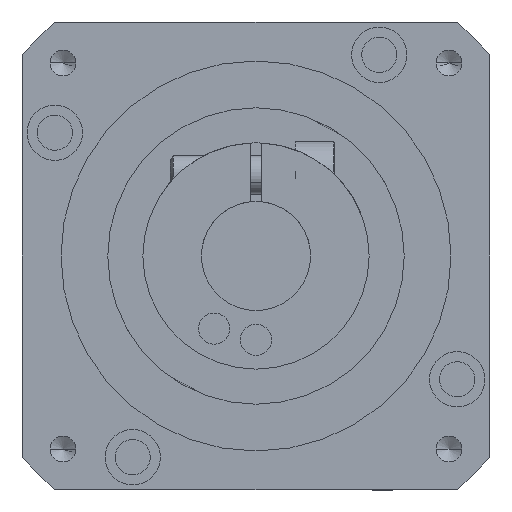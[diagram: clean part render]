
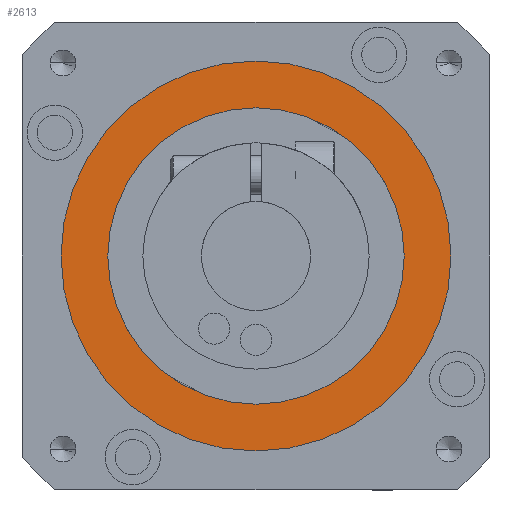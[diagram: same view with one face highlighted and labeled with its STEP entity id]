
A CAD part, front view. The second image highlights one B-rep face of the part: STEP entity #2613.
In plain terms, the highlighted planar face has unit normal (0, -1, 0).
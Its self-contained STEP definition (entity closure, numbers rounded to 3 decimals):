
#87 = VERTEX_POINT ( 'NONE', #4539 ) ;
#252 = EDGE_CURVE ( 'NONE', #3378, #2198, #2495, .T. ) ;
#299 = CARTESIAN_POINT ( 'NONE',  ( 0., -36., 0. ) ) ;
#634 = AXIS2_PLACEMENT_3D ( 'NONE', #2038, #5037, #5758 ) ;
#646 = CIRCLE ( 'NONE', #3174, 25. ) ;
#991 = EDGE_CURVE ( 'NONE', #3278, #87, #2630, .T. ) ;
#1233 = CARTESIAN_POINT ( 'NONE',  ( 0., -36., 0. ) ) ;
#1535 = PLANE ( 'NONE',  #634 ) ;
#2038 = CARTESIAN_POINT ( 'NONE',  ( 25., -36., 0. ) ) ;
#2110 = ORIENTED_EDGE ( 'NONE', *, *, #2988, .F. ) ;
#2175 = DIRECTION ( 'NONE',  ( 0., 1., 0. ) ) ;
#2198 = VERTEX_POINT ( 'NONE', #5330 ) ;
#2495 = CIRCLE ( 'NONE', #5083, 19. ) ;
#2518 = DIRECTION ( 'NONE',  ( 0., 0., 1. ) ) ;
#2613 = ADVANCED_FACE ( 'NONE', ( #3920, #7192 ), #1535, .F. ) ;
#2630 = CIRCLE ( 'NONE', #4848, 25. ) ;
#2836 = EDGE_CURVE ( 'NONE', #2198, #3378, #7726, .T. ) ;
#2988 = EDGE_CURVE ( 'NONE', #87, #3278, #646, .T. ) ;
#3174 = AXIS2_PLACEMENT_3D ( 'NONE', #7784, #3592, #5738 ) ;
#3278 = VERTEX_POINT ( 'NONE', #8348 ) ;
#3378 = VERTEX_POINT ( 'NONE', #4331 ) ;
#3552 = DIRECTION ( 'NONE',  ( 0., 1., 0. ) ) ;
#3592 = DIRECTION ( 'NONE',  ( 0., 1., 0. ) ) ;
#3920 = FACE_OUTER_BOUND ( 'NONE', #6671, .T. ) ;
#4331 = CARTESIAN_POINT ( 'NONE',  ( 0., -36., -19. ) ) ;
#4539 = CARTESIAN_POINT ( 'NONE',  ( 0., -36., 25. ) ) ;
#4767 = DIRECTION ( 'NONE',  ( 0., 0., 1. ) ) ;
#4848 = AXIS2_PLACEMENT_3D ( 'NONE', #1233, #6008, #4767 ) ;
#5037 = DIRECTION ( 'NONE',  ( 0., 1., 0. ) ) ;
#5083 = AXIS2_PLACEMENT_3D ( 'NONE', #299, #2175, #2518 ) ;
#5330 = CARTESIAN_POINT ( 'NONE',  ( 0., -36., 19. ) ) ;
#5738 = DIRECTION ( 'NONE',  ( 0., 0., 1. ) ) ;
#5758 = DIRECTION ( 'NONE',  ( 0., 0., 1. ) ) ;
#5982 = EDGE_LOOP ( 'NONE', ( #6383, #7695 ) ) ;
#6008 = DIRECTION ( 'NONE',  ( 0., 1., 0. ) ) ;
#6184 = ORIENTED_EDGE ( 'NONE', *, *, #991, .F. ) ;
#6383 = ORIENTED_EDGE ( 'NONE', *, *, #2836, .T. ) ;
#6671 = EDGE_LOOP ( 'NONE', ( #2110, #6184 ) ) ;
#7192 = FACE_BOUND ( 'NONE', #5982, .T. ) ;
#7402 = AXIS2_PLACEMENT_3D ( 'NONE', #8468, #3552, #7757 ) ;
#7695 = ORIENTED_EDGE ( 'NONE', *, *, #252, .T. ) ;
#7726 = CIRCLE ( 'NONE', #7402, 19. ) ;
#7757 = DIRECTION ( 'NONE',  ( 0., 0., 1. ) ) ;
#7784 = CARTESIAN_POINT ( 'NONE',  ( 0., -36., 0. ) ) ;
#8348 = CARTESIAN_POINT ( 'NONE',  ( 0., -36., -25. ) ) ;
#8468 = CARTESIAN_POINT ( 'NONE',  ( 0., -36., 0. ) ) ;
